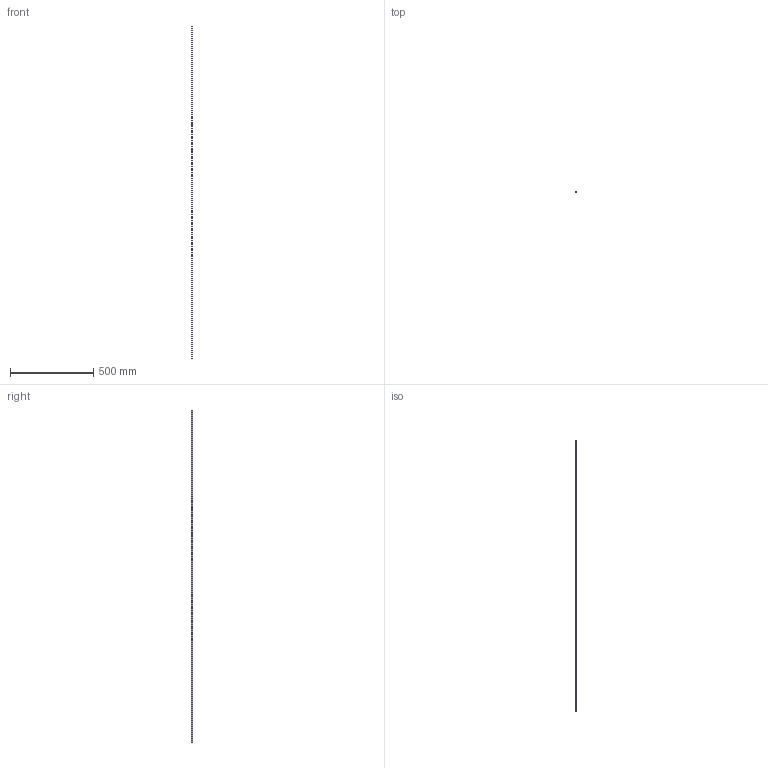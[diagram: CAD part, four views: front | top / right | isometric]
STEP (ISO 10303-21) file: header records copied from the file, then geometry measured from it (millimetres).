
FILE_DESCRIPTION((''),'2;1');
FILE_NAME('C:\Documents and Settings\古川典政\My Documents\Inventor\HP用\MasterData\ACCESSORY\M4\FS2-04.stp','2008-07-30T10:35:48',(''),(''),'Autodesk Inventor 2008','Autodesk Inventor 2008','');
FILE_SCHEMA(('CONFIG_CONTROL_DESIGN'));
Length unit declared in the file: millimetre
Products named in the file (1): FS2-04-WH
Bounding box: 6 x 6.3 x 2000 mm (x, y, z)
Volume: 17730 mm3; surface area: 80617.7 mm2
Topology: 1 solids, 1 shells, 26 faces, 72 edges, 48 vertices
Faces by surface type: plane 26
Entity records: 833 total; most frequent: CARTESIAN_POINT 147, ORIENTED_EDGE 144, DIRECTION 126, VECTOR 72, LINE 72, EDGE_CURVE 72, VERTEX_POINT 48, AXIS2_PLACEMENT_3D 27
